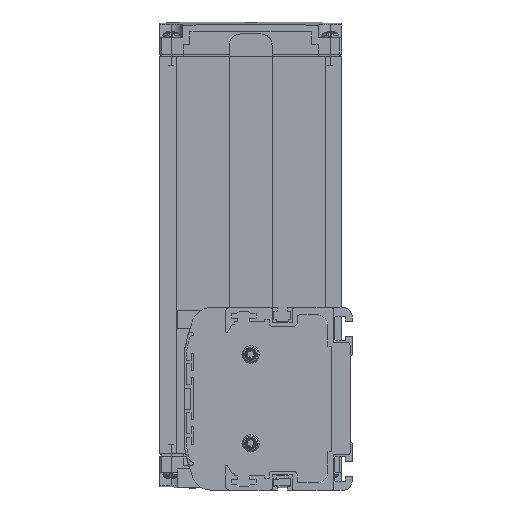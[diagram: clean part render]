
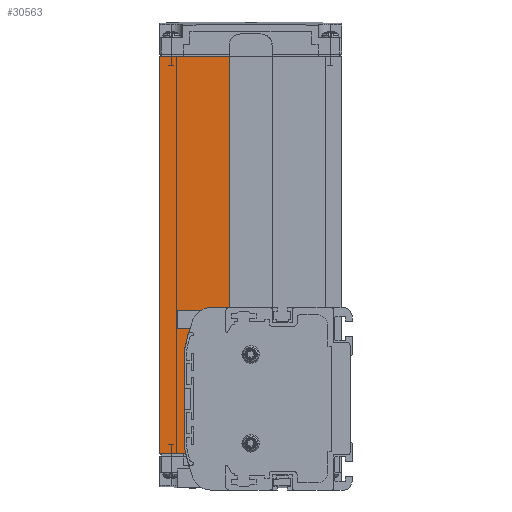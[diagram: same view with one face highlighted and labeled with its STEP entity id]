
A CAD part, left-side view. The second image highlights one B-rep face of the part: STEP entity #30563.
In plain terms, the highlighted planar face has unit normal (-1, 0, 0).
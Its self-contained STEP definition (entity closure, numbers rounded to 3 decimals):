
#6531=DIRECTION('',(0.,0.,1.));
#6532=VECTOR('',#6531,0.762);
#6533=CARTESIAN_POINT('',(3.,70.5,26.738));
#6534=LINE('',#6533,#6532);
#6539=DIRECTION('',(0.,-1.,0.));
#6540=VECTOR('',#6539,11.203);
#6541=CARTESIAN_POINT('',(3.,82.5,-23.5));
#6542=LINE('',#6541,#6540);
#6543=DIRECTION('',(0.,0.,-1.));
#6544=VECTOR('',#6543,170.);
#6545=CARTESIAN_POINT('',(3.,82.5,146.5));
#6546=LINE('',#6545,#6544);
#6547=DIRECTION('',(0.,1.,0.));
#6548=VECTOR('',#6547,29.9);
#6549=CARTESIAN_POINT('',(3.,52.6,146.5));
#6550=LINE('',#6549,#6548);
#6551=DIRECTION('',(0.,-1.,0.));
#6552=VECTOR('',#6551,8.155);
#6553=CARTESIAN_POINT('',(3.,60.755,39.));
#6554=LINE('',#6553,#6552);
#9558=CARTESIAN_POINT('',(3.,-6.765,-6.));
#9559=DIRECTION('',(1.,0.,0.));
#9560=DIRECTION('',(0.,0.976,-0.219));
#9561=AXIS2_PLACEMENT_3D('',#9558,#9559,#9560);
#9567=CARTESIAN_POINT('',(3.,70.,-19.823));
#9568=DIRECTION('',(-1.,0.,0.));
#9569=DIRECTION('',(0.,1.,0.));
#9570=AXIS2_PLACEMENT_3D('',#9567,#9568,#9569);
#9580=DIRECTION('',(0.,0.,1.));
#9581=VECTOR('',#9580,39.645);
#9582=CARTESIAN_POINT('',(3.,72.,-19.823));
#9583=LINE('',#9582,#9581);
#9588=CARTESIAN_POINT('',(3.,70.,19.823));
#9589=DIRECTION('',(1.,0.,0.));
#9590=DIRECTION('',(0.,1.,0.));
#9591=AXIS2_PLACEMENT_3D('',#9588,#9589,#9590);
#9597=CARTESIAN_POINT('',(3.,-6.765,6.));
#9598=DIRECTION('',(1.,0.,0.));
#9599=DIRECTION('',(0.,0.984,0.177));
#9600=AXIS2_PLACEMENT_3D('',#9597,#9598,#9599);
#9602=CARTESIAN_POINT('',(3.,-6.765,6.));
#9603=DIRECTION('',(1.,0.,0.));
#9604=DIRECTION('',(0.,0.963,0.269));
#9605=AXIS2_PLACEMENT_3D('',#9602,#9603,#9604);
#9611=CARTESIAN_POINT('',(3.,60.755,31.));
#9612=DIRECTION('',(-1.,0.,0.));
#9613=DIRECTION('',(0.,0.,1.));
#9614=AXIS2_PLACEMENT_3D('',#9611,#9612,#9613);
#10005=DIRECTION('',(0.,-1.,0.));
#10006=VECTOR('',#10005,0.209);
#10007=CARTESIAN_POINT('',(3.,70.5,27.5));
#10008=LINE('',#10007,#10006);
#10021=DIRECTION('',(0.,0.,1.));
#10022=VECTOR('',#10021,107.5);
#10023=CARTESIAN_POINT('',(3.,52.6,39.));
#10024=LINE('',#10023,#10022);
#17574=CARTESIAN_POINT('',(3.,82.5,-23.5));
#17576=VERTEX_POINT('',#17574);
#17671=CARTESIAN_POINT('',(3.,52.6,146.5));
#17672=VERTEX_POINT('',#17671);
#17673=CARTESIAN_POINT('',(3.,82.5,146.5));
#17674=VERTEX_POINT('',#17673);
#17707=CARTESIAN_POINT('',(3.,70.5,27.5));
#17708=VERTEX_POINT('',#17707);
#21690=CARTESIAN_POINT('',(3.,60.755,39.));
#21691=CARTESIAN_POINT('',(3.,52.6,39.));
#21692=VERTEX_POINT('',#21690);
#21693=VERTEX_POINT('',#21691);
#21694=CARTESIAN_POINT('',(3.,71.297,-23.5));
#21696=VERTEX_POINT('',#21694);
#21706=CARTESIAN_POINT('',(3.,70.5,26.738));
#21707=VERTEX_POINT('',#21706);
#21711=CARTESIAN_POINT('',(3.,70.291,27.5));
#21713=VERTEX_POINT('',#21711);
#21720=CARTESIAN_POINT('',(3.,72.,19.823));
#21721=CARTESIAN_POINT('',(3.,71.968,20.177));
#21722=VERTEX_POINT('',#21720);
#21723=VERTEX_POINT('',#21721);
#21724=CARTESIAN_POINT('',(3.,68.257,33.778));
#21725=VERTEX_POINT('',#21724);
#21738=CARTESIAN_POINT('',(3.,71.968,-20.177));
#21739=VERTEX_POINT('',#21738);
#21740=CARTESIAN_POINT('',(3.,72.,-19.823));
#21741=VERTEX_POINT('',#21740);
#30531=CARTESIAN_POINT('',(3.,67.55,61.5));
#30532=DIRECTION('',(1.,0.,0.));
#30533=DIRECTION('',(0.,-1.,0.));
#30534=AXIS2_PLACEMENT_3D('',#30531,#30532,#30533);
#30535=PLANE('',#30534);
#30537=ORIENTED_EDGE('',*,*,#30536,.F.);
#30539=ORIENTED_EDGE('',*,*,#30538,.T.);
#30541=ORIENTED_EDGE('',*,*,#30540,.F.);
#30543=ORIENTED_EDGE('',*,*,#30542,.F.);
#30544=ORIENTED_EDGE('',*,*,#30523,.F.);
#30546=ORIENTED_EDGE('',*,*,#30545,.F.);
#30548=ORIENTED_EDGE('',*,*,#30547,.F.);
#30550=ORIENTED_EDGE('',*,*,#30549,.F.);
#30552=ORIENTED_EDGE('',*,*,#30551,.T.);
#30554=ORIENTED_EDGE('',*,*,#30553,.F.);
#30555=ORIENTED_EDGE('',*,*,#27484,.F.);
#30557=ORIENTED_EDGE('',*,*,#30556,.F.);
#30558=ORIENTED_EDGE('',*,*,#22189,.F.);
#30560=ORIENTED_EDGE('',*,*,#30559,.F.);
#30561=EDGE_LOOP('',(#30537,#30539,#30541,#30543,#30544,#30546,#30548,#30550,
#30552,#30554,#30555,#30557,#30558,#30560));
#30562=FACE_OUTER_BOUND('',#30561,.F.);
#30563=ADVANCED_FACE('',(#30562),#30535,.F.);
#9562=CIRCLE('',#9561,80.);
#9571=CIRCLE('',#9570,2.);
#9592=CIRCLE('',#9591,2.);
#9601=CIRCLE('',#9600,80.);
#9606=CIRCLE('',#9605,80.);
#9615=CIRCLE('',#9614,8.);
#22189=EDGE_CURVE('',#17672,#17674,#6550,.T.);
#27484=EDGE_CURVE('',#17576,#21696,#6542,.T.);
#30523=EDGE_CURVE('',#21707,#17708,#6534,.T.);
#30536=EDGE_CURVE('',#21692,#21693,#6554,.T.);
#30538=EDGE_CURVE('',#21692,#21725,#9615,.T.);
#30540=EDGE_CURVE('',#21713,#21725,#9606,.T.);
#30542=EDGE_CURVE('',#17708,#21713,#10008,.T.);
#30545=EDGE_CURVE('',#21723,#21707,#9601,.T.);
#30547=EDGE_CURVE('',#21722,#21723,#9592,.T.);
#30549=EDGE_CURVE('',#21741,#21722,#9583,.T.);
#30551=EDGE_CURVE('',#21741,#21739,#9571,.T.);
#30553=EDGE_CURVE('',#21696,#21739,#9562,.T.);
#30556=EDGE_CURVE('',#17674,#17576,#6546,.T.);
#30559=EDGE_CURVE('',#21693,#17672,#10024,.T.);
